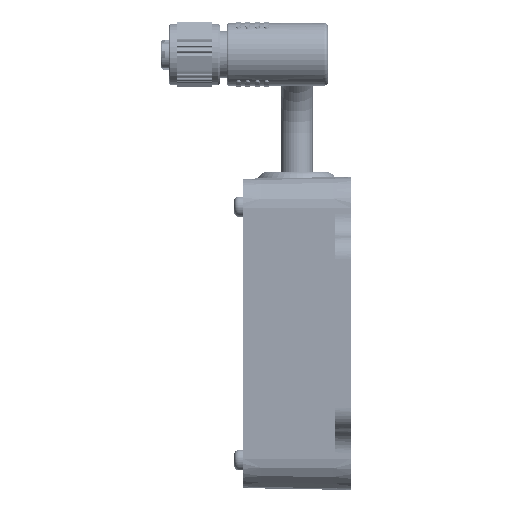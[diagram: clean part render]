
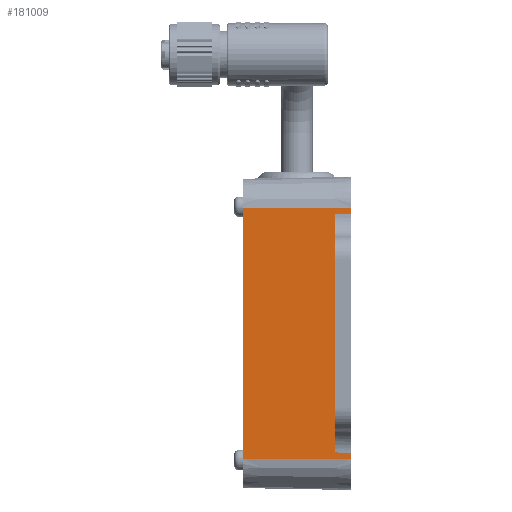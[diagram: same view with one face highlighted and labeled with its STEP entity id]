
A CAD part, left-side view. The second image highlights one B-rep face of the part: STEP entity #181009.
In plain terms, the highlighted planar face has unit normal (-1, 0.018, 0).
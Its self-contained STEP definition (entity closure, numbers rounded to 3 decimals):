
#17023 = CARTESIAN_POINT ( 'NONE',  ( -33.498, -3.904, 30.476 ) ) ;
#18454 = CARTESIAN_POINT ( 'NONE',  ( -33.429, 0.096, -30.406 ) ) ;
#19352 = ORIENTED_EDGE ( 'NONE', *, *, #181150, .T. ) ;
#22870 = VERTEX_POINT ( 'NONE', #319801 ) ;
#30195 = CARTESIAN_POINT ( 'NONE',  ( -33.498, -3.86, -32. ) ) ;
#30627 = VERTEX_POINT ( 'NONE', #191937 ) ;
#42568 = LINE ( 'NONE', #286845, #98903 ) ;
#57998 = LINE ( 'NONE', #360834, #215501 ) ;
#58912 = CARTESIAN_POINT ( 'NONE',  ( -33.5, -4., 0. ) ) ;
#62484 = ORIENTED_EDGE ( 'NONE', *, *, #184521, .T. ) ;
#67907 = LINE ( 'NONE', #18454, #279377 ) ;
#75673 = VERTEX_POINT ( 'NONE', #92187 ) ;
#76714 = PLANE ( 'NONE',  #242355 ) ;
#82523 = FACE_OUTER_BOUND ( 'NONE', #343738, .T. ) ;
#92187 = CARTESIAN_POINT ( 'NONE',  ( -33.5, -4., -30.478 ) ) ;
#98903 = VECTOR ( 'NONE', #193079, 1000. ) ;
#101681 = LINE ( 'NONE', #340167, #248823 ) ;
#104507 = CARTESIAN_POINT ( 'NONE',  ( -33.5, -4., 32. ) ) ;
#106315 = DIRECTION ( 'NONE',  ( 0.017, 1., 0.017 ) ) ;
#109202 = DIRECTION ( 'NONE',  ( 0., 0., -1. ) ) ;
#114948 = CARTESIAN_POINT ( 'NONE',  ( -33.5, -4., 0. ) ) ;
#117713 = DIRECTION ( 'NONE',  ( 0., 0., 1. ) ) ;
#121845 = LINE ( 'NONE', #30195, #163877 ) ;
#125518 = EDGE_CURVE ( 'NONE', #30627, #133804, #42568, .T. ) ;
#133804 = VERTEX_POINT ( 'NONE', #135851 ) ;
#135851 = CARTESIAN_POINT ( 'NONE',  ( -33.02, 23.5, -32. ) ) ;
#137431 = ORIENTED_EDGE ( 'NONE', *, *, #260647, .F. ) ;
#143765 = ORIENTED_EDGE ( 'NONE', *, *, #271702, .F. ) ;
#163877 = VECTOR ( 'NONE', #385870, 1000. ) ;
#175311 = DIRECTION ( 'NONE',  ( 0., 0., -1. ) ) ;
#181009 = ADVANCED_FACE ( 'NONE', ( #82523 ), #76714, .T. ) ;
#181150 = EDGE_CURVE ( 'NONE', #350399, #30627, #101681, .T. ) ;
#184355 = VERTEX_POINT ( 'NONE', #383666 ) ;
#184419 = ORIENTED_EDGE ( 'NONE', *, *, #224589, .T. ) ;
#184521 = EDGE_CURVE ( 'NONE', #22870, #184355, #204473, .T. ) ;
#191937 = CARTESIAN_POINT ( 'NONE',  ( -33.02, 23.5, 32. ) ) ;
#193079 = DIRECTION ( 'NONE',  ( 0., 0., -1. ) ) ;
#198835 = CARTESIAN_POINT ( 'NONE',  ( -33.43, 0., -30.408 ) ) ;
#200084 = LINE ( 'NONE', #385533, #343232 ) ;
#204473 = LINE ( 'NONE', #17023, #381930 ) ;
#215501 = VECTOR ( 'NONE', #175311, 1000. ) ;
#224589 = EDGE_CURVE ( 'NONE', #75673, #265172, #67907, .T. ) ;
#234936 = DIRECTION ( 'NONE',  ( -1., 0.017, 0. ) ) ;
#242355 = AXIS2_PLACEMENT_3D ( 'NONE', #58912, #234936, #356040 ) ;
#248823 = VECTOR ( 'NONE', #306918, 1000. ) ;
#260647 = EDGE_CURVE ( 'NONE', #75673, #361936, #57998, .T. ) ;
#265172 = VERTEX_POINT ( 'NONE', #198835 ) ;
#271592 = CARTESIAN_POINT ( 'NONE',  ( -33.5, -4., -32. ) ) ;
#271702 = EDGE_CURVE ( 'NONE', #350399, #184355, #318356, .T. ) ;
#279377 = VECTOR ( 'NONE', #106315, 1000. ) ;
#286845 = CARTESIAN_POINT ( 'NONE',  ( -33.02, 23.5, 0. ) ) ;
#306918 = DIRECTION ( 'NONE',  ( 0.017, 1., 0. ) ) ;
#315371 = ORIENTED_EDGE ( 'NONE', *, *, #125518, .T. ) ;
#318356 = LINE ( 'NONE', #114948, #335809 ) ;
#319801 = CARTESIAN_POINT ( 'NONE',  ( -33.43, 0., 30.408 ) ) ;
#335809 = VECTOR ( 'NONE', #109202, 1000. ) ;
#340167 = CARTESIAN_POINT ( 'NONE',  ( -33.5, -4., 32. ) ) ;
#342646 = ORIENTED_EDGE ( 'NONE', *, *, #343670, .T. ) ;
#343232 = VECTOR ( 'NONE', #117713, 1000. ) ;
#343670 = EDGE_CURVE ( 'NONE', #265172, #22870, #200084, .T. ) ;
#343738 = EDGE_LOOP ( 'NONE', ( #137431, #184419, #342646, #62484, #143765, #19352, #315371, #346840 ) ) ;
#345323 = DIRECTION ( 'NONE',  ( -0.017, -1., 0.017 ) ) ;
#346840 = ORIENTED_EDGE ( 'NONE', *, *, #368112, .F. ) ;
#350399 = VERTEX_POINT ( 'NONE', #104507 ) ;
#356040 = DIRECTION ( 'NONE',  ( -0.017, -1., 0. ) ) ;
#360834 = CARTESIAN_POINT ( 'NONE',  ( -33.5, -4., 0. ) ) ;
#361936 = VERTEX_POINT ( 'NONE', #271592 ) ;
#368112 = EDGE_CURVE ( 'NONE', #361936, #133804, #121845, .T. ) ;
#381930 = VECTOR ( 'NONE', #345323, 1000. ) ;
#383666 = CARTESIAN_POINT ( 'NONE',  ( -33.5, -4., 30.478 ) ) ;
#385533 = CARTESIAN_POINT ( 'NONE',  ( -33.43, 0., 0. ) ) ;
#385870 = DIRECTION ( 'NONE',  ( 0.017, 1., 0. ) ) ;
